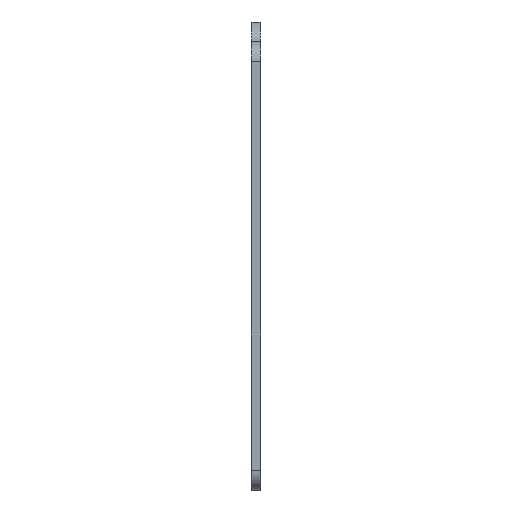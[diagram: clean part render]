
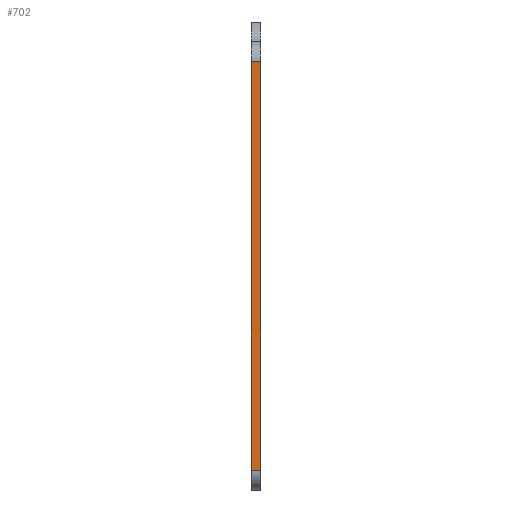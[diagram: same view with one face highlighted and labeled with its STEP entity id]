
A CAD part, left-side view. The second image highlights one B-rep face of the part: STEP entity #702.
In plain terms, the highlighted planar face has unit normal (-1, 0, 0).
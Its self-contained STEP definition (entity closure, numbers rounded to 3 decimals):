
#10 = ORIENTED_EDGE ( 'NONE', *, *, #651, .T. ) ;
#39 = CARTESIAN_POINT ( 'NONE',  ( -16.15, 0.7, 15.4 ) ) ;
#52 = LINE ( 'NONE', #74, #463 ) ;
#62 = VECTOR ( 'NONE', #921, 1000. ) ;
#74 = CARTESIAN_POINT ( 'NONE',  ( -16.15, 0.7, 15.4 ) ) ;
#77 = ORIENTED_EDGE ( 'NONE', *, *, #425, .F. ) ;
#92 = EDGE_CURVE ( 'NONE', #750, #142, #414, .T. ) ;
#97 = ORIENTED_EDGE ( 'NONE', *, *, #92, .T. ) ;
#110 = VECTOR ( 'NONE', #449, 1000. ) ;
#125 = DIRECTION ( 'NONE',  ( 0., 0., 1. ) ) ;
#142 = VERTEX_POINT ( 'NONE', #193 ) ;
#183 = ORIENTED_EDGE ( 'NONE', *, *, #900, .F. ) ;
#193 = CARTESIAN_POINT ( 'NONE',  ( -16.15, 0., -15.4 ) ) ;
#204 = DIRECTION ( 'NONE',  ( 1., 0., 0. ) ) ;
#224 = CARTESIAN_POINT ( 'NONE',  ( -16.15, 0., 15.4 ) ) ;
#292 = LINE ( 'NONE', #356, #769 ) ;
#341 = EDGE_LOOP ( 'NONE', ( #10, #183, #77, #97 ) ) ;
#356 = CARTESIAN_POINT ( 'NONE',  ( -16.15, 0., 15.4 ) ) ;
#361 = PLANE ( 'NONE',  #720 ) ;
#414 = LINE ( 'NONE', #744, #62 ) ;
#425 = EDGE_CURVE ( 'NONE', #750, #598, #52, .T. ) ;
#442 = DIRECTION ( 'NONE',  ( 0., 0., -1. ) ) ;
#449 = DIRECTION ( 'NONE',  ( 0., -1., 0. ) ) ;
#463 = VECTOR ( 'NONE', #125, 1000. ) ;
#553 = CARTESIAN_POINT ( 'NONE',  ( -16.15, 0.7, -15.4 ) ) ;
#598 = VERTEX_POINT ( 'NONE', #979 ) ;
#620 = DIRECTION ( 'NONE',  ( 0., 0., 1. ) ) ;
#651 = EDGE_CURVE ( 'NONE', #142, #982, #292, .T. ) ;
#702 = ADVANCED_FACE ( 'NONE', ( #1001 ), #361, .F. ) ;
#720 = AXIS2_PLACEMENT_3D ( 'NONE', #39, #204, #442 ) ;
#744 = CARTESIAN_POINT ( 'NONE',  ( -16.15, 0.7, -15.4 ) ) ;
#750 = VERTEX_POINT ( 'NONE', #553 ) ;
#769 = VECTOR ( 'NONE', #620, 1000. ) ;
#855 = LINE ( 'NONE', #1019, #110 ) ;
#900 = EDGE_CURVE ( 'NONE', #598, #982, #855, .T. ) ;
#921 = DIRECTION ( 'NONE',  ( 0., -1., 0. ) ) ;
#979 = CARTESIAN_POINT ( 'NONE',  ( -16.15, 0.7, 15.4 ) ) ;
#982 = VERTEX_POINT ( 'NONE', #224 ) ;
#1001 = FACE_OUTER_BOUND ( 'NONE', #341, .T. ) ;
#1019 = CARTESIAN_POINT ( 'NONE',  ( -16.15, 0.7, 15.4 ) ) ;
